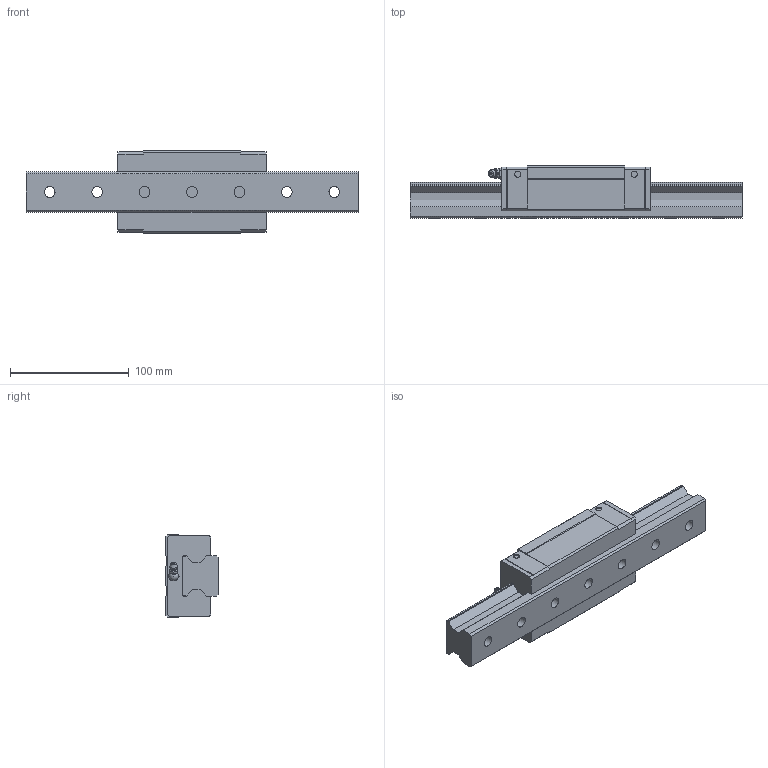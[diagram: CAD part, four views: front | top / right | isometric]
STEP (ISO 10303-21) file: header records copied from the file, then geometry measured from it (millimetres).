
FILE_DESCRIPTION(/* description */ ('STEP AP203'),/* implementation_level */ '2;1');
FILE_NAME(/* name */ 'SRN35R1SS-280L_G20_0_B-M6F_77-5_0_0_0_1',/* time_stamp */ '2024-05-23T10:56:33+02:00',/* author */ ('License CC BY-ND 4.0'),/* organization */ ('CADENAS'),/* preprocessor_version */ 'ST-DEVELOPER v19.3',/* originating_system */ 'PARTsolutions',/* authorisation */ ' ');
FILE_SCHEMA (('CONFIG_CONTROL_DESIGN'));
Length unit declared in the file: millimetre
Products named in the file (4): SRN35R1SS-280L_G20_0_B-M6F_77-5_0_0_0_1; SRG35R28020 Track; SRN35RSSB-M6F1 Slide25-55; B-M6F-SRN_grease_nipple_joint
Assembly tree (3 placements, depth 2):
  SRN35R1SS-280L_G20_0_B-M6F_77-5_0_0_0_1
    SRG35R28020 Track
    SRN35RSSB-M6F1 Slide25-55
    B-M6F-SRN_grease_nipple_joint
Bounding box: 280 x 44 x 70 mm (x, y, z)
Volume: 462391.8 mm3; surface area: 85431.5 mm2
Topology: 3 solids, 3 shells, 187 faces, 480 edges, 311 vertices
Faces by surface type: plane 125, cylinder 32, cone 25, sphere 3, torus 2
Full cylindrical faces by diameter (mm): 4.917 x2, 5.2 x4, 6 x1, 6.647 x6, 8 x1, 9 x7, 14 x7
Entity records: 5437 total; most frequent: CARTESIAN_POINT 1010, DIRECTION 864, ORIENTED_EDGE 828, EDGE_CURVE 414, VERTEX_POINT 305, LINE 298, VECTOR 298, AXIS2_PLACEMENT_3D 283
